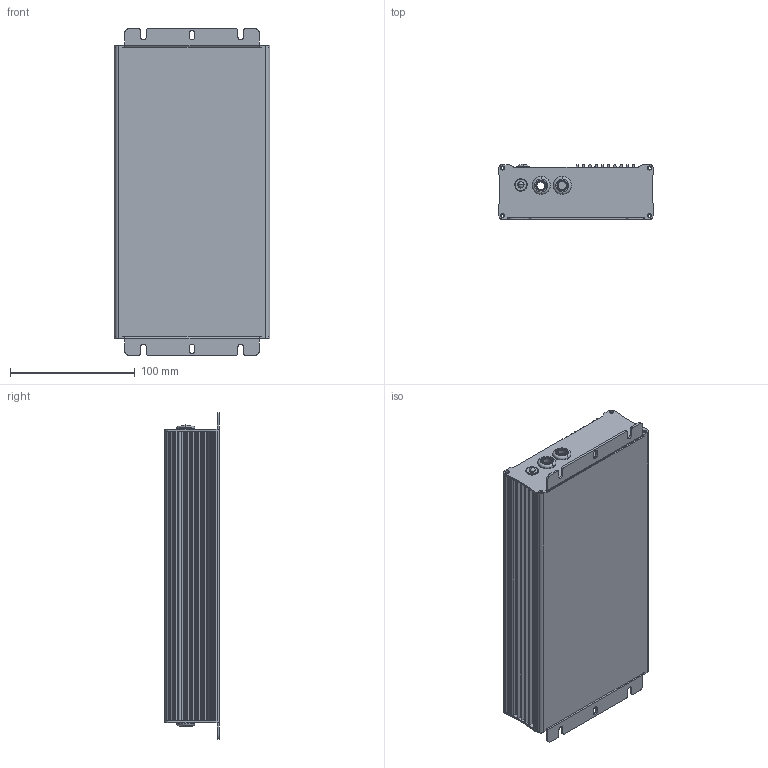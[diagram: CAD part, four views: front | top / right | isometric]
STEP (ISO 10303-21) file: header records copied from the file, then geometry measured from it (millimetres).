
FILE_DESCRIPTION(('Creo Elements/Direct Modeling STEP Export'),'2;1');
FILE_NAME('HEP-480A.stp','2017-05-09T10:26:45',(''),(''),'PTC Creo Elements/Direct Modeling STEP processor for AP214 (Solid Model)','PTC Creo Elements/Direct Modeling 19.0 09-May-2014 (C) Parametric Technology GmbH','');
FILE_SCHEMA(('AUTOMOTIVE_DESIGN { 1 0 10303 214 1 1 1 1 }'));
Length unit declared in the file: millimetre
Products named in the file (9): HLG-480H-ATYPE-193980.PRT.1; HLG-480H-ATYPE-193980.PRT; HLG-480H-ATYPE-194310.ASM; TLED-05_w_p____; LED2PIN__; RD1311028___X1; RD1311028ýíÎX1.STEP; TLED-05¿wÙpÙæÏÿ.STEP; HEP-480A
Assembly tree (8 placements, depth 5):
  HEP-480A
    TLED-05¿wÙpÙæÏÿ.STEP
      RD1311028ýíÎX1.STEP
        RD1311028___X1
          LED2PIN__
      TLED-05_w_p____
    HLG-480H-ATYPE-194310.ASM
      HLG-480H-ATYPE-193980.PRT
      HLG-480H-ATYPE-193980.PRT.1
Bounding box: 125.02 x 44.05 x 262 mm (x, y, z)
Volume: 227308.8 mm3; surface area: 213492.5 mm2
Topology: 4 solids, 6 shells, 712 faces, 1942 edges, 1267 vertices
Faces by surface type: plane 334, cylinder 284, cone 62, torus 26, sphere 6
Entity records: 28435 total; most frequent: CARTESIAN_POINT 4330, DIRECTION 4038, ORIENTED_EDGE 3872, EDGE_CURVE 1936, AXIS2_PLACEMENT_3D 1516, VERTEX_POINT 1267, VECTOR 1006, LINE 1006
